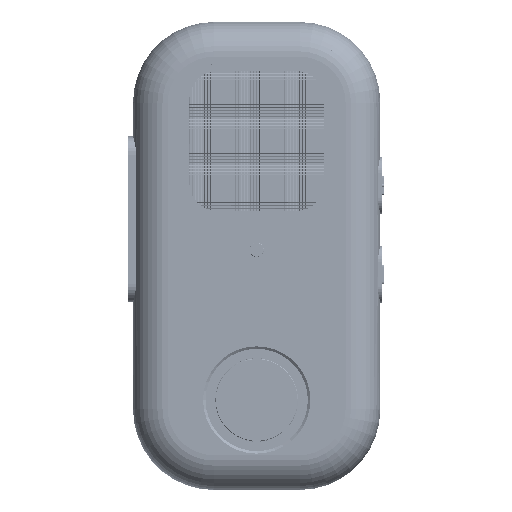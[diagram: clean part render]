
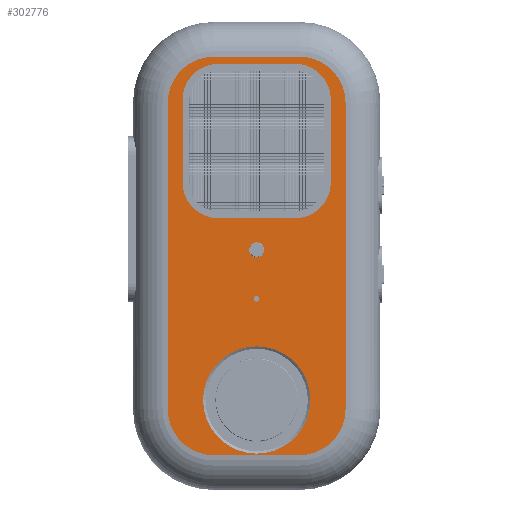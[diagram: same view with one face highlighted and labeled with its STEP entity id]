
A CAD part, top view. The second image highlights one B-rep face of the part: STEP entity #302776.
In plain terms, the highlighted planar face has unit normal (0, 0, 1).
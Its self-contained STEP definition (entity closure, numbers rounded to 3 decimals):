
#14917=FACE_BOUND('',#47067,.T.);
#14918=FACE_BOUND('',#47068,.T.);
#14919=FACE_BOUND('',#47069,.T.);
#14920=FACE_BOUND('',#47070,.T.);
#16018=PLANE('',#322894);
#29548=FACE_OUTER_BOUND('',#47066,.T.);
#47066=EDGE_LOOP('',(#220551,#220552,#220553,#220554,#220555,#220556,#220557,
#220558));
#47067=EDGE_LOOP('',(#220559));
#47068=EDGE_LOOP('',(#220560,#220561,#220562,#220563,#220564,#220565,#220566,
#220567));
#47069=EDGE_LOOP('',(#220568));
#47070=EDGE_LOOP('',(#220569));
#65039=LINE('',#429302,#99970);
#65041=LINE('',#429310,#99972);
#65049=LINE('',#429341,#99980);
#65053=LINE('',#429353,#99984);
#65784=LINE('',#432624,#100715);
#65787=LINE('',#432631,#100718);
#65803=LINE('',#432670,#100734);
#65804=LINE('',#432675,#100735);
#99970=VECTOR('',#346233,10.);
#99972=VECTOR('',#346241,10.);
#99980=VECTOR('',#346273,10.);
#99984=VECTOR('',#346285,10.);
#100715=VECTOR('',#348490,10.);
#100718=VECTOR('',#348499,10.);
#100734=VECTOR('',#348535,10.);
#100735=VECTOR('',#348540,10.);
#137502=CIRCLE('',#322138,11.7);
#137504=CIRCLE('',#322142,11.7);
#137525=CIRCLE('',#322173,2.45);
#137527=CIRCLE('',#322176,17.5);
#137528=CIRCLE('',#322178,0.9);
#137855=CIRCLE('',#322880,11.7);
#137856=CIRCLE('',#322883,11.7);
#137860=CIRCLE('',#322895,15.);
#137861=CIRCLE('',#322896,15.);
#137862=CIRCLE('',#322897,15.);
#137863=CIRCLE('',#322898,15.);
#143672=VERTEX_POINT('',#429299);
#143673=VERTEX_POINT('',#429301);
#143675=VERTEX_POINT('',#429307);
#143676=VERTEX_POINT('',#429309);
#143683=VERTEX_POINT('',#429331);
#143684=VERTEX_POINT('',#429332);
#143687=VERTEX_POINT('',#429340);
#143689=VERTEX_POINT('',#429346);
#143691=VERTEX_POINT('',#429352);
#143751=VERTEX_POINT('',#429529);
#143753=VERTEX_POINT('',#429535);
#143754=VERTEX_POINT('',#429539);
#144488=VERTEX_POINT('',#432619);
#144489=VERTEX_POINT('',#432623);
#144490=VERTEX_POINT('',#432627);
#144502=VERTEX_POINT('',#432668);
#144503=VERTEX_POINT('',#432669);
#144504=VERTEX_POINT('',#432672);
#144505=VERTEX_POINT('',#432674);
#173527=EDGE_CURVE('',#143672,#143673,#65039,.T.);
#173531=EDGE_CURVE('',#143675,#143676,#65041,.T.);
#173542=EDGE_CURVE('',#143683,#143684,#137502,.T.);
#173546=EDGE_CURVE('',#143687,#143683,#65049,.T.);
#173549=EDGE_CURVE('',#143689,#143687,#137504,.T.);
#173552=EDGE_CURVE('',#143691,#143689,#65053,.T.);
#173620=EDGE_CURVE('',#143751,#143751,#137525,.T.);
#173623=EDGE_CURVE('',#143753,#143753,#137527,.T.);
#173624=EDGE_CURVE('',#143754,#143754,#137528,.T.);
#174686=EDGE_CURVE('',#144488,#143691,#137855,.T.);
#174688=EDGE_CURVE('',#144489,#144488,#65784,.T.);
#174690=EDGE_CURVE('',#144490,#144489,#137856,.T.);
#174692=EDGE_CURVE('',#143684,#144490,#65787,.T.);
#174711=EDGE_CURVE('',#144502,#144503,#65803,.T.);
#174712=EDGE_CURVE('',#143676,#144502,#137860,.T.);
#174713=EDGE_CURVE('',#144504,#143675,#137861,.T.);
#174714=EDGE_CURVE('',#144505,#144504,#65804,.T.);
#174715=EDGE_CURVE('',#143673,#144505,#137862,.T.);
#174716=EDGE_CURVE('',#144503,#143672,#137863,.T.);
#220551=ORIENTED_EDGE('',*,*,#174711,.F.);
#220552=ORIENTED_EDGE('',*,*,#174712,.F.);
#220553=ORIENTED_EDGE('',*,*,#173531,.F.);
#220554=ORIENTED_EDGE('',*,*,#174713,.F.);
#220555=ORIENTED_EDGE('',*,*,#174714,.F.);
#220556=ORIENTED_EDGE('',*,*,#174715,.F.);
#220557=ORIENTED_EDGE('',*,*,#173527,.F.);
#220558=ORIENTED_EDGE('',*,*,#174716,.F.);
#220559=ORIENTED_EDGE('',*,*,#173620,.T.);
#220560=ORIENTED_EDGE('',*,*,#173552,.T.);
#220561=ORIENTED_EDGE('',*,*,#173549,.T.);
#220562=ORIENTED_EDGE('',*,*,#173546,.T.);
#220563=ORIENTED_EDGE('',*,*,#173542,.T.);
#220564=ORIENTED_EDGE('',*,*,#174692,.T.);
#220565=ORIENTED_EDGE('',*,*,#174690,.T.);
#220566=ORIENTED_EDGE('',*,*,#174688,.T.);
#220567=ORIENTED_EDGE('',*,*,#174686,.T.);
#220568=ORIENTED_EDGE('',*,*,#173623,.T.);
#220569=ORIENTED_EDGE('',*,*,#173624,.T.);
#302776=ADVANCED_FACE('',(#29548,#14917,#14918,#14919,#14920),#16018,.T.);
#322138=AXIS2_PLACEMENT_3D('',#429333,#346265,#346266);
#322142=AXIS2_PLACEMENT_3D('',#429347,#346278,#346279);
#322173=AXIS2_PLACEMENT_3D('',#429531,#346383,#346384);
#322176=AXIS2_PLACEMENT_3D('',#429537,#346390,#346391);
#322178=AXIS2_PLACEMENT_3D('',#429540,#346394,#346395);
#322880=AXIS2_PLACEMENT_3D('',#432620,#348485,#348486);
#322883=AXIS2_PLACEMENT_3D('',#432628,#348494,#348495);
#322894=AXIS2_PLACEMENT_3D('',#432667,#348533,#348534);
#322895=AXIS2_PLACEMENT_3D('',#432671,#348536,#348537);
#322896=AXIS2_PLACEMENT_3D('',#432673,#348538,#348539);
#322897=AXIS2_PLACEMENT_3D('',#432676,#348541,#348542);
#322898=AXIS2_PLACEMENT_3D('',#432677,#348543,#348544);
#346233=DIRECTION('',(1.,0.,0.));
#346241=DIRECTION('',(-1.,0.,0.));
#346265=DIRECTION('center_axis',(0.,0.,-1.));
#346266=DIRECTION('ref_axis',(1.,0.,0.));
#346273=DIRECTION('',(0.,-1.,0.));
#346278=DIRECTION('center_axis',(0.,0.,-1.));
#346279=DIRECTION('ref_axis',(1.,0.,0.));
#346285=DIRECTION('',(1.,0.,0.));
#346383=DIRECTION('center_axis',(0.,0.,-1.));
#346384=DIRECTION('ref_axis',(1.,0.,0.));
#346390=DIRECTION('center_axis',(0.,0.,-1.));
#346391=DIRECTION('ref_axis',(1.,0.,0.));
#346394=DIRECTION('center_axis',(0.,0.,-1.));
#346395=DIRECTION('ref_axis',(-1.,0.,0.));
#348485=DIRECTION('center_axis',(0.,0.,-1.));
#348486=DIRECTION('ref_axis',(1.,0.,0.));
#348490=DIRECTION('',(0.,1.,0.));
#348494=DIRECTION('center_axis',(0.,0.,-1.));
#348495=DIRECTION('ref_axis',(1.,0.,0.));
#348499=DIRECTION('',(-1.,0.,0.));
#348533=DIRECTION('center_axis',(0.,0.,1.));
#348534=DIRECTION('ref_axis',(1.,0.,0.));
#348535=DIRECTION('',(0.,1.,0.));
#348536=DIRECTION('center_axis',(0.,0.,-1.));
#348537=DIRECTION('ref_axis',(-0.707,-0.707,0.));
#348538=DIRECTION('center_axis',(0.,0.,-1.));
#348539=DIRECTION('ref_axis',(0.707,-0.707,0.));
#348540=DIRECTION('',(0.,-1.,0.));
#348541=DIRECTION('center_axis',(0.,0.,-1.));
#348542=DIRECTION('ref_axis',(0.707,0.707,0.));
#348543=DIRECTION('center_axis',(0.,0.,-1.));
#348544=DIRECTION('ref_axis',(-0.707,0.707,0.));
#429299=CARTESIAN_POINT('',(-14.,65.,0.));
#429301=CARTESIAN_POINT('',(14.,65.,0.));
#429302=CARTESIAN_POINT('',(0.,65.,0.));
#429307=CARTESIAN_POINT('',(14.,-65.,0.));
#429309=CARTESIAN_POINT('',(-14.,-65.,0.));
#429310=CARTESIAN_POINT('',(0.,-65.,0.));
#429331=CARTESIAN_POINT('',(24.2,24.,0.));
#429332=CARTESIAN_POINT('',(12.5,12.3,0.));
#429333=CARTESIAN_POINT('Origin',(12.5,24.,0.));
#429340=CARTESIAN_POINT('',(24.2,51.,0.));
#429341=CARTESIAN_POINT('',(24.2,18.75,0.));
#429346=CARTESIAN_POINT('',(12.5,62.7,0.));
#429347=CARTESIAN_POINT('Origin',(12.5,51.,0.));
#429352=CARTESIAN_POINT('',(-12.5,62.7,0.));
#429353=CARTESIAN_POINT('',(0.,62.7,0.));
#429529=CARTESIAN_POINT('',(-2.45,2.,0.));
#429531=CARTESIAN_POINT('Origin',(0.,2.,0.));
#429535=CARTESIAN_POINT('',(-17.5,-47.,0.));
#429537=CARTESIAN_POINT('Origin',(0.,-47.,0.));
#429539=CARTESIAN_POINT('',(0.9,-14.,0.));
#429540=CARTESIAN_POINT('Origin',(0.,-14.,0.));
#432619=CARTESIAN_POINT('',(-24.2,51.,0.));
#432620=CARTESIAN_POINT('Origin',(-12.5,51.,0.));
#432623=CARTESIAN_POINT('',(-24.2,24.,0.));
#432624=CARTESIAN_POINT('',(-24.2,18.75,0.));
#432627=CARTESIAN_POINT('',(-12.5,12.3,0.));
#432628=CARTESIAN_POINT('Origin',(-12.5,24.,0.));
#432631=CARTESIAN_POINT('',(0.,12.3,0.));
#432667=CARTESIAN_POINT('Origin',(0.,0.,0.));
#432668=CARTESIAN_POINT('',(-29.,-50.,0.));
#432669=CARTESIAN_POINT('',(-29.,50.,0.));
#432670=CARTESIAN_POINT('',(-29.,0.,0.));
#432671=CARTESIAN_POINT('Origin',(-14.,-50.,0.));
#432672=CARTESIAN_POINT('',(29.,-50.,0.));
#432673=CARTESIAN_POINT('Origin',(14.,-50.,0.));
#432674=CARTESIAN_POINT('',(29.,50.,0.));
#432675=CARTESIAN_POINT('',(29.,0.,0.));
#432676=CARTESIAN_POINT('Origin',(14.,50.,0.));
#432677=CARTESIAN_POINT('Origin',(-14.,50.,0.));
